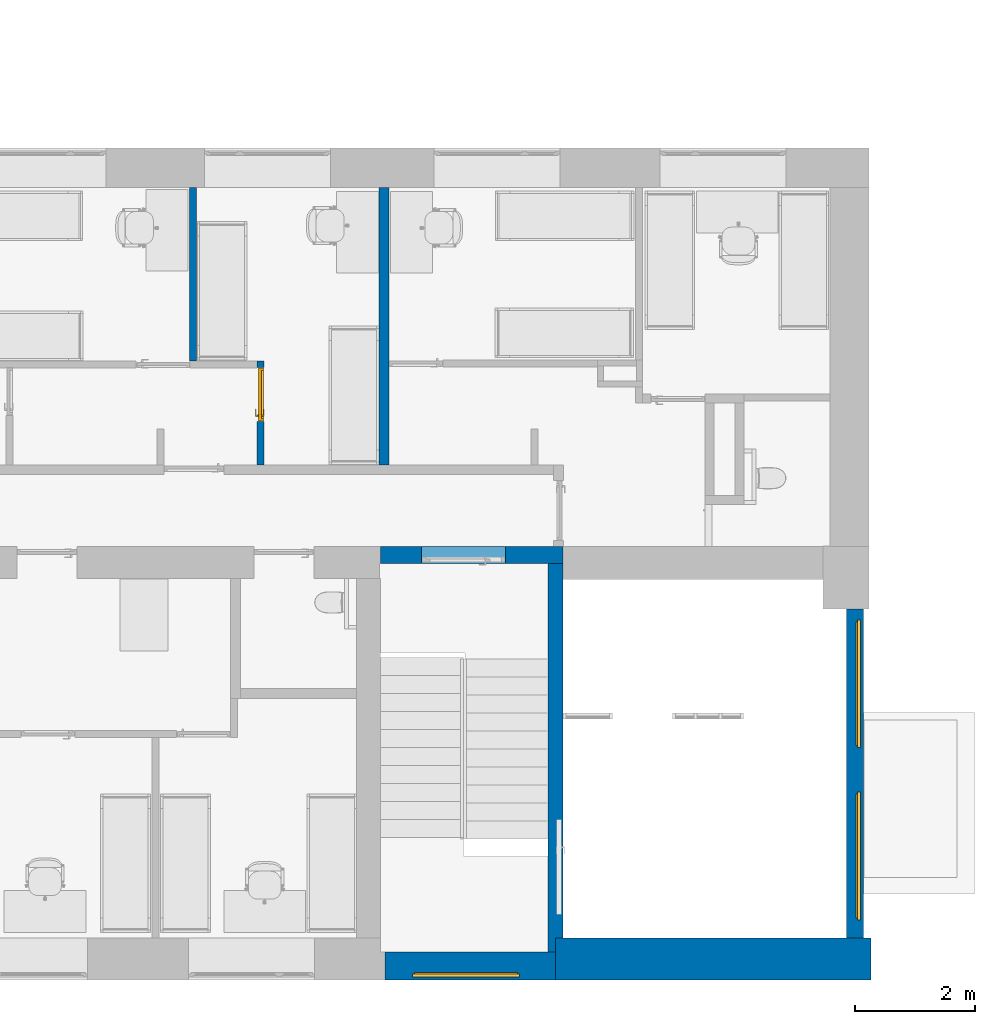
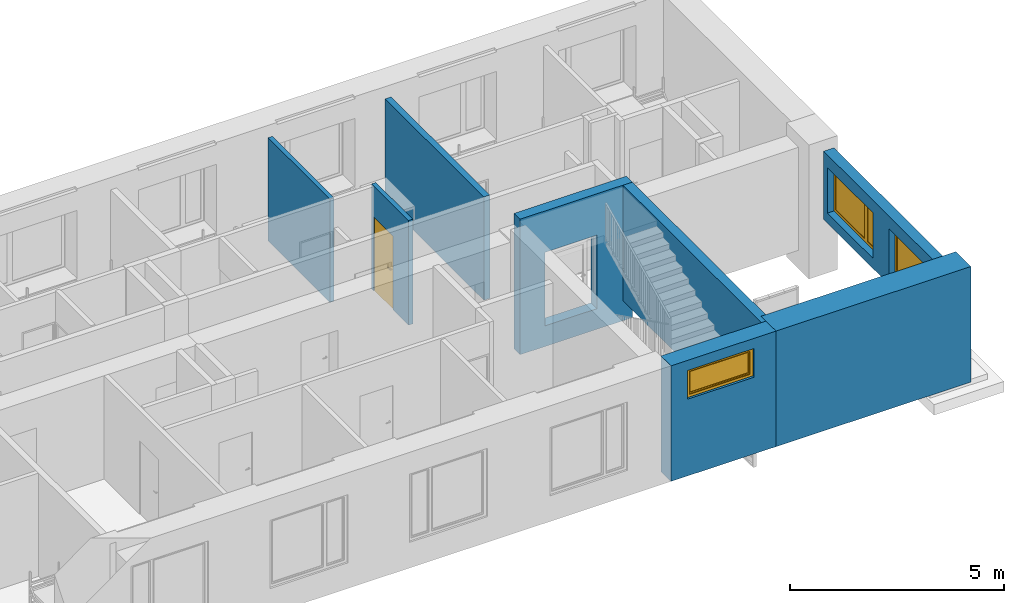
# One storey, part 13 of 46: 8 walls, 3 windows, 1 door, 10 openings.
"""IFC2X3 building model written with IfcOpenShell, lengths in millimetres."""

from ifc_helpers import new_model, entity, si_unit, converted_unit, derived_unit, direction, frame, frame_2d, origin, origin_2d_with_axis, place, context, subcontext, project, spatial, polyline, rectangle, outline, extrude, faceted_brep, source, transform, mapped, material, material_list, layer, layer_set, layer_usage, type_object, type_shapes, element, fill, save


model = new_model("IFC2X3")

# Units and contexts
model_context = context("Model", 3, precision=0.01, world=origin(), true_north=direction((6.12303176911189e-17, 1.0)))
body_context = subcontext(model_context, "Body", "Model", "MODEL_VIEW")
ifc_project = project(units=[si_unit("LENGTHUNIT", "METRE", prefix="MILLI"), si_unit("AREAUNIT", "SQUARE_METRE"), si_unit("VOLUMEUNIT", "CUBIC_METRE"), converted_unit("PLANEANGLEUNIT", "DEGREE", entity("IfcRatioMeasure", 0.0174532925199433), si_unit("PLANEANGLEUNIT", "RADIAN"), dimensions=[0, 0, 0, 0, 0, 0, 0]), si_unit("MASSUNIT", "GRAM", prefix="KILO"), derived_unit("MASSDENSITYUNIT", [(si_unit("MASSUNIT", "GRAM", prefix="KILO"), 1), (si_unit("LENGTHUNIT", "METRE"), -3)]), si_unit("TIMEUNIT", "SECOND"), si_unit("FREQUENCYUNIT", "HERTZ"), si_unit("THERMODYNAMICTEMPERATUREUNIT", "DEGREE_CELSIUS"), derived_unit("THERMALTRANSMITTANCEUNIT", [(si_unit("MASSUNIT", "GRAM", prefix="KILO"), 1), (si_unit("THERMODYNAMICTEMPERATUREUNIT", "KELVIN"), -1), (si_unit("TIMEUNIT", "SECOND"), -3)]), derived_unit("VOLUMETRICFLOWRATEUNIT", [(si_unit("LENGTHUNIT", "METRE"), 3), (si_unit("TIMEUNIT", "SECOND"), -1)]), si_unit("ELECTRICCURRENTUNIT", "AMPERE"), si_unit("ELECTRICVOLTAGEUNIT", "VOLT"), si_unit("POWERUNIT", "WATT"), si_unit("FORCEUNIT", "NEWTON", prefix="KILO"), si_unit("ILLUMINANCEUNIT", "LUX"), si_unit("LUMINOUSFLUXUNIT", "LUMEN"), si_unit("LUMINOUSINTENSITYUNIT", "CANDELA"), derived_unit("USERDEFINED", [(si_unit("MASSUNIT", "GRAM", prefix="KILO"), -1), (si_unit("LENGTHUNIT", "METRE"), -2), (si_unit("TIMEUNIT", "SECOND"), 3), (si_unit("LUMINOUSFLUXUNIT", "LUMEN"), 1)]), derived_unit("LINEARVELOCITYUNIT", [(si_unit("LENGTHUNIT", "METRE"), 1), (si_unit("TIMEUNIT", "SECOND"), -1)]), si_unit("PRESSUREUNIT", "PASCAL"), derived_unit("USERDEFINED", [(si_unit("LENGTHUNIT", "METRE"), -2), (si_unit("MASSUNIT", "GRAM", prefix="KILO"), 1), (si_unit("TIMEUNIT", "SECOND"), -2)]), derived_unit("LINEARFORCEUNIT", [(si_unit("MASSUNIT", "GRAM", prefix="KILO"), 1), (si_unit("LENGTHUNIT", "METRE"), 1), (si_unit("TIMEUNIT", "SECOND"), -2), (si_unit("LENGTHUNIT", "METRE"), -1)]), derived_unit("PLANARFORCEUNIT", [(si_unit("MASSUNIT", "GRAM", prefix="KILO"), 1), (si_unit("LENGTHUNIT", "METRE"), 1), (si_unit("TIMEUNIT", "SECOND"), -2), (si_unit("LENGTHUNIT", "METRE"), -2)])], contexts=[model_context])

# Site, building, storey
site_placement = place(None, origin())
site = spatial("IfcSite", under=ifc_project, at=site_placement, Name="Default", CompositionType="ELEMENT")
building_placement = place(site_placement, origin())
building = spatial("IfcBuilding", under=site, at=building_placement, Name="SMA ARH", CompositionType="ELEMENT")
storey_placement = place(building_placement, origin())
storey = spatial("IfcBuildingStorey", under=building, at=storey_placement, Name="1 Korrus", CompositionType="ELEMENT", Elevation=0.0)

# Wall, opening
ifc_material_1 = material(Name="_ol.olev sein")
ifc_layer_1 = layer(ifc_material_1, 700.0)
ifc_layer_set_1 = layer_set([ifc_layer_1], Name="Basic Wall:Generic - 700mm")
ifc_layer_usage_1 = layer_usage(ifc_layer_set_1, "AXIS2", "POSITIVE", -350.0)
wall_type_1 = type_object("IfcWallType", Name="Basic Wall:Generic - 700mm", PredefinedType="STANDARD", material=ifc_layer_set_1)
wall_1_placement = place(storey_placement, frame((33740.0, -350.0, 0.0)))
wall_1 = element("IfcWallStandardCase", 1, at=wall_1_placement, inside=storey, type_object=wall_type_1, material=ifc_layer_usage_1, Name="Basic Wall:Generic - 700mm", ObjectType="Basic Wall:Generic - 700mm", context=body_context, shape_type="SweptSolid", body=[
    extrude(rectangle(XDim=5260.69800172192, YDim=700.0, at=frame_2d((2630.34900086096, 2.8421709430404e-14), x_axis=(-1.0, 0.0))), origin(), (0.0, 0.0, 1.0), 3299.99999999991),
])
opening_1_placement = place(wall_1_placement, origin())
element("IfcOpeningElement", 2, at=opening_1_placement, cuts=wall_1, Name="Basic Wall:Generic - 700mm", ObjectType="Opening", context=body_context, shape_type="SweptSolid", body=[
    extrude(rectangle(XDim=820.0, YDim=1800.0, at=frame_2d((0.0, 1.4210854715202e-13), x_axis=(0.0, 1.0))), frame((-1490.0, -1404.0, 2600.0), z_axis=(0.0, 1.0, 0.0), x_axis=(-1.0, 0.0, 0.0)), (0.0, 0.0, 1.0), 3048.0),
])

# Wall, openings
ifc_layer_2 = layer(ifc_material_1, 280.0)
ifc_layer_set_2 = layer_set([ifc_layer_2], Name="Basic Wall:Generic - 280mm")
ifc_layer_usage_2 = layer_usage(ifc_layer_set_2, "AXIS2", "POSITIVE", -140.0)
wall_type_2 = type_object("IfcWallType", Name="Basic Wall:Generic - 280mm", PredefinedType="STANDARD", material=ifc_layer_set_2)
wall_2_placement = place(storey_placement, frame((30830.0, 6380.0, -568.557748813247)))
wall_2 = element("IfcWallStandardCase", 3, at=wall_2_placement, inside=storey, type_object=wall_type_2, material=ifc_layer_usage_2, Name="Basic Wall:Generic - 280mm", ObjectType="Basic Wall:Generic - 280mm", context=body_context, shape_type="SweptSolid", body=[
    extrude(rectangle(XDim=3035.00000000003, YDim=279.999999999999, at=frame_2d((1517.50000000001, 3.69482222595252e-13), x_axis=(-1.0, 0.0))), origin(), (0.0, 0.0, 1.0), 3868.55774881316),
])
opening_2_placement = place(wall_2_placement, origin())
element("IfcOpeningElement", 4, at=opening_2_placement, cuts=wall_2, Name="Basic Wall:Generic - 280mm", ObjectType="Opening", context=body_context, shape_type="SweptSolid", body=[
    extrude(rectangle(XDim=2059.99999999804, YDim=999.999999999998, at=origin_2d_with_axis()), frame((-1615.0, -1384.0, 1598.55774881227), z_axis=(0.0, 1.0, 0.0), x_axis=(0.0, 0.0, 1.0)), (0.0, 0.0, 1.0), 3048.0),
])
opening_3_placement = place(wall_2_placement, origin())
element("IfcOpeningElement", 5, at=opening_3_placement, cuts=wall_2, Name="Basic Wall:Generic - 280mm", ObjectType="Opening", context=body_context, shape_type="SweptSolid", body=[
    extrude(rectangle(XDim=2099.99999999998, YDim=1350.0, at=frame_2d((0.0, -2.1600499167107e-12), x_axis=(1.0, 0.0))), frame((1345.0, -1384.0, 4918.55774881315), z_axis=(0.0, 1.0, 0.0), x_axis=(0.0, 0.0, 1.0)), (0.0, 0.0, 1.0), 3048.0),
])
opening_4_placement = place(wall_2_placement, frame((2080.0, 140.0, 588.557748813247)))
element("IfcOpeningElement", 6, at=opening_4_placement, cuts=wall_2, Name="SMA_D02, 2-poolne:SU-AL-02 - 1400x2100 EI-30:1", ObjectType="Opening", context=body_context, shape_type="SweptSolid", body=[
    extrude(rectangle(XDim=2099.99999999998, YDim=1400.0, at=frame_2d((1049.99999999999, 700.0), x_axis=(1.0, 0.0))), frame((0.0, 0.0, 0.0), z_axis=(0.0, -1.0, 0.0), x_axis=(0.0, 0.0, 1.0)), (0.0, 0.0, 1.0), 280.0),
])

# Wall, openings, windows
ifc_layer_usage_3 = layer_usage(ifc_layer_set_2, "AXIS2", "NEGATIVE", 140.0)
wall_3_placement = place(storey_placement, frame((38729.9009991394, 5480.0, 1042.37172766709), z_axis=(0.0, 0.0, 1.0), x_axis=(0.0, -1.0, 0.0)))
wall_3 = element("IfcWallStandardCase", 7, at=wall_3_placement, inside=storey, type_object=wall_type_2, material=ifc_layer_usage_3, Name="Basic Wall:Generic - 280mm", ObjectType="Basic Wall:Generic - 280mm", context=body_context, shape_type="SweptSolid", body=[
    extrude(rectangle(XDim=5480.00000000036, YDim=279.999999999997, at=frame_2d((2740.00000000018, 0.0), x_axis=(-1.0, 0.0))), origin(), (0.0, 0.0, 1.0), 1947.62827233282),
])
opening_5_placement = place(wall_3_placement, frame((180.0, -140.0, 287.628272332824)))
opening_5 = element("IfcOpeningElement", 8, at=opening_5_placement, cuts=wall_3, Name="SMA_W2, 2-jaotus:A-00 - 19800x1900:1", ObjectType="Opening", context=body_context, shape_type="SweptSolid", body=[
    extrude(rectangle(XDim=1300.0, YDim=2130.0, at=frame_2d((650.0, 1065.0), x_axis=(1.0, 0.0))), frame((0.0, 0.0, 0.0), z_axis=(0.0, 1.0, 0.0), x_axis=(0.0, 0.0, 1.0)), (0.0, 0.0, 1.0), 280.0),
])
opening_6_placement = place(wall_3_placement, frame((3050.0, -140.0, 287.628272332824)))
opening_6 = element("IfcOpeningElement", 9, at=opening_6_placement, cuts=wall_3, Name="SMA_W2, 2-jaotus:A-00 - 19800x1900:1", ObjectType="Opening", context=body_context, shape_type="SweptSolid", body=[
    extrude(rectangle(XDim=1300.0, YDim=2130.0, at=frame_2d((650.0, 1065.0), x_axis=(1.0, 0.0))), frame((0.0, 0.0, 0.0), z_axis=(0.0, 1.0, 0.0), x_axis=(0.0, 0.0, 1.0)), (0.0, 0.0, 1.0), 280.0),
])
ifc_material_2 = material(Name="Glass")
ifc_material_3 = material(Name="Hall")
ifc_material_list_1 = material_list([ifc_material_2, ifc_material_3])
ifc_material_4 = material(Name="<Unnamed>")
ifc_material_list_2 = material_list([ifc_material_2, ifc_material_3, ifc_material_4, ifc_material_3, ifc_material_4])
window_style_1 = type_object("IfcWindowStyle", Name="SMA_W2, 2-jaotus:A-00 - 19800x1900", ConstructionType="NOTDEFINED", OperationType="NOTDEFINED", ParameterTakesPrecedence=False, Sizeable=False, material=ifc_material_list_2)
shared_shape_1 = source(origin(), body_context, "Body", "Brep", [
    faceted_brep([(105.0, 170.0, 1195.0), (105.0, 170.0, 105.0), (1470.0, 170.0, 105.0), (1470.0, 170.0, 1195.0), (105.0, 190.0, 1195.0), (105.0, 190.0, 105.0), (1470.0, 190.0, 105.0), (1470.0, 190.0, 1195.0)], [[[0, 1, 2, 3]], [[1, 0, 4, 5]], [[2, 1, 5, 6]], [[3, 2, 6, 7]], [[4, 7, 6, 5]], [[0, 3, 7, 4]]]),
    faceted_brep([(1610.0, 170.0, 105.0), (2025.0, 170.0, 105.0), (2025.0, 170.0, 1195.0), (1610.0, 170.0, 1195.0), (1610.0, 190.0, 105.0), (2025.0, 190.0, 105.0), (2025.0, 190.0, 1195.0), (1610.0, 190.0, 1195.0)], [[[0, 1, 2, 3]], [[1, 0, 4, 5]], [[2, 1, 5, 6]], [[0, 3, 7, 4]], [[4, 7, 6, 5]], [[3, 2, 6, 7]]]),
    faceted_brep([(35.0, 155.0, 35.0), (1540.0, 155.0, 35.0), (1540.0, 155.0, 1265.0), (35.0, 155.0, 1265.0), (1470.0, 155.0, 1195.0), (1470.0, 155.0, 105.0), (105.0, 155.0, 105.0), (105.0, 155.0, 1195.0), (35.0, 205.0, 35.0), (1540.0, 205.0, 35.0), (1540.0, 205.0, 1265.0), (35.0, 205.0, 1265.0), (1470.0, 205.0, 1195.0), (1470.0, 205.0, 105.0), (105.0, 205.0, 105.0), (105.0, 205.0, 1195.0)], [[[0, 1, 2, 3], [4, 5, 6, 7]], [[1, 0, 8, 9]], [[2, 1, 9, 10]], [[0, 3, 11, 8]], [[5, 4, 12, 13]], [[6, 5, 13, 14]], [[7, 6, 14, 15]], [[8, 11, 10, 9], [12, 15, 14, 13]], [[3, 2, 10, 11]], [[4, 7, 15, 12]]]),
    faceted_brep([(1540.0, 155.0, 35.0), (2095.0, 155.0, 35.0), (2095.0, 155.0, 1265.0), (1540.0, 155.0, 1265.0), (2025.0, 155.0, 1195.0), (2025.0, 155.0, 105.0), (1610.0, 155.0, 105.0), (1610.0, 155.0, 1195.0), (1540.0, 205.0, 35.0), (2095.0, 205.0, 35.0), (2095.0, 205.0, 1265.0), (1540.0, 205.0, 1265.0), (2025.0, 205.0, 1195.0), (2025.0, 205.0, 105.0), (1610.0, 205.0, 105.0), (1610.0, 205.0, 1195.0)], [[[0, 1, 2, 3], [4, 5, 6, 7]], [[1, 0, 8, 9]], [[2, 1, 9, 10]], [[0, 3, 11, 8]], [[5, 4, 12, 13]], [[6, 5, 13, 14]], [[7, 6, 14, 15]], [[8, 11, 10, 9], [12, 15, 14, 13]], [[3, 2, 10, 11]], [[4, 7, 15, 12]]]),
    faceted_brep([(0.0, 180.0, 0.0), (2130.0, 180.0, 0.0), (2130.0, 180.0, 1300.0), (0.0, 180.0, 1300.0), (2095.0, 180.0, 35.0), (1540.0, 180.0, 35.0), (1540.0, 180.0, 1265.0), (2095.0, 180.0, 1265.0), (70.0, 180.0, 1230.0), (1505.0, 180.0, 1230.0), (1505.0, 180.0, 70.0), (70.0, 180.0, 70.0), (0.0, 230.0, 0.0), (2130.0, 230.0, 0.0), (2130.0, 230.0, 1300.0), (0.0, 230.0, 1300.0), (1505.0, 230.0, 1230.0), (1505.0, 230.0, 70.0), (70.0, 230.0, 70.0), (70.0, 230.0, 1230.0), (2095.0, 205.0, 35.0), (1540.0, 205.0, 35.0), (1540.0, 205.0, 1265.0), (2095.0, 205.0, 1265.0), (1575.0, 230.0, 1230.0), (1575.0, 230.0, 70.0), (2060.0, 230.0, 70.0), (2060.0, 230.0, 1230.0), (1575.0, 205.0, 1230.0), (1575.0, 205.0, 70.0), (2060.0, 205.0, 70.0), (2060.0, 205.0, 1230.0)], [[[0, 1, 2, 3], [4, 5, 6, 7], [8, 9, 10, 11]], [[1, 0, 12, 13]], [[2, 1, 13, 14]], [[0, 3, 15, 12]], [[10, 9, 16, 17]], [[11, 10, 17, 18]], [[8, 11, 18, 19]], [[20, 21, 5, 4]], [[21, 22, 6, 5]], [[23, 20, 4, 7]], [[12, 15, 14, 13], [19, 18, 17, 16], [24, 25, 26, 27]], [[25, 24, 28, 29]], [[26, 25, 29, 30]], [[27, 26, 30, 31]], [[21, 20, 23, 22], [28, 31, 30, 29]], [[3, 2, 14, 15]], [[24, 27, 31, 28]], [[9, 8, 19, 16]], [[22, 23, 7, 6]]]),
])
type_shapes(window_style_1, [shared_shape_1])
window_1_placement = place(opening_6_placement, origin())
window_1 = element("IfcWindow", 10, at=window_1_placement, inside=storey, type_object=window_style_1, material=ifc_material_list_1, Name="SMA_W2, 2-jaotus:A-00 - 19800x1900", ObjectType="SMA_W2, 2-jaotus:A-00 - 19800x1900", OverallHeight=1300.0, OverallWidth=2130.0, context=body_context, shape_type="MappedRepresentation", body=[
    mapped(shared_shape_1, transform((0.0, 0.0, 0.0), scale=1.0)),
])
fill(opening_6, window_1)
ifc_material_list_3 = material_list([ifc_material_2, ifc_material_3])
window_2_placement = place(opening_5_placement, origin())
window_2 = element("IfcWindow", 11, at=window_2_placement, inside=storey, type_object=window_style_1, material=ifc_material_list_3, Name="SMA_W2, 2-jaotus:A-00 - 19800x1900", ObjectType="SMA_W2, 2-jaotus:A-00 - 19800x1900", OverallHeight=1300.0, OverallWidth=2130.0, context=body_context, shape_type="MappedRepresentation", body=[
    mapped(shared_shape_1, transform((0.0, 0.0, 0.0), scale=1.0)),
])
fill(opening_5, window_2)

# Wall, opening
ifc_layer_3 = layer(ifc_material_1, 250.0)
ifc_layer_set_3 = layer_set([ifc_layer_3], Name="Basic Wall:Generic - 250mm")
ifc_layer_usage_4 = layer_usage(ifc_layer_set_3, "AXIS2", "NEGATIVE", 125.0)
wall_type_3 = type_object("IfcWallType", Name="Basic Wall:Generic - 250mm", PredefinedType="STANDARD", material=ifc_layer_set_3)
wall_4_placement = place(storey_placement, frame((33740.0, 6240.0, 0.0), z_axis=(0.0, 0.0, 1.0), x_axis=(0.0, -1.0, 0.0)))
wall_4 = element("IfcWallStandardCase", 12, at=wall_4_placement, inside=storey, type_object=wall_type_3, material=ifc_layer_usage_4, Name="Basic Wall:Generic - 250mm", ObjectType="Basic Wall:Generic - 250mm", context=body_context, shape_type="SweptSolid", body=[
    extrude(outline(polyline([(0.0, -125.0), (270.0, -125.0), (1230.0, -125.0), (6240.0, -125.0), (6470.0, -125.0), (6470.0, 0.0), (6240.0, 0.0), (6240.0, 125.0), (1230.0, 125.0), (270.0, 125.0), (0.0, 125.0), (0.0, -125.0)])), origin(), (0.0, 0.0, 1.0), 3299.99999999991),
])
opening_7_placement = place(wall_4_placement, frame((4255.0, -125.0, -1270.0)))
element("IfcOpeningElement", 13, at=opening_7_placement, cuts=wall_4, Name="SMA_D02, 2-poolne:SU-AL-04 - 1600x2100:1", ObjectType="Opening", context=body_context, shape_type="SweptSolid", body=[
    extrude(rectangle(XDim=2189.99999999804, YDim=1600.0, at=frame_2d((1094.99999999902, 800.0), x_axis=(1.0, 0.0))), frame((0.0, 0.0, 0.0), z_axis=(0.0, 1.0, 0.0), x_axis=(0.0, 0.0, 1.0)), (0.0, 0.0, 1.0), 250.0),
])

# Wall, opening, window
ifc_layer_4 = layer(ifc_material_1, 470.0)
ifc_layer_set_4 = layer_set([ifc_layer_4], Name="Basic Wall:Generic - 470mm")
ifc_layer_usage_5 = layer_usage(ifc_layer_set_4, "AXIS2", "POSITIVE", -235.0)
wall_type_4 = type_object("IfcWallType", Name="Basic Wall:Generic - 470mm", PredefinedType="STANDARD", material=ifc_layer_set_4)
wall_5_placement = place(storey_placement, frame((30900.6980017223, -465.0, 0.0)))
wall_5 = element("IfcWallStandardCase", 14, at=wall_5_placement, inside=storey, type_object=wall_type_4, material=ifc_layer_usage_5, Name="Basic Wall:Generic - 470mm", ObjectType="Basic Wall:Generic - 470mm", context=body_context, shape_type="SweptSolid", body=[
    extrude(rectangle(XDim=2839.30199827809, YDim=470.0, at=frame_2d((1419.65099913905, -8.5265128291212e-14), x_axis=(-1.0, 0.0))), origin(), (0.0, 0.0, 1.0), 3299.99999999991),
])
opening_8_placement = place(wall_5_placement, frame((2249.30199827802, 235.0, 2190.0)))
opening_8 = element("IfcOpeningElement", 15, at=opening_8_placement, cuts=wall_5, Name="SMA_W1, 1-jaotus1:A-00_18000x600 mm:1", ObjectType="Opening", context=body_context, shape_type="SweptSolid", body=[
    extrude(rectangle(XDim=820.0, YDim=1800.0, at=frame_2d((410.0, 900.0), x_axis=(1.0, 0.0))), frame((0.0, 0.0, 0.0), z_axis=(0.0, -1.0, 0.0), x_axis=(0.0, 0.0, 1.0)), (0.0, 0.0, 1.0), 470.0),
])
ifc_material_5 = material(Name="EST. Klaas. 3x. Default")
ifc_material_6 = material(Name="Default")
ifc_material_list_4 = material_list([ifc_material_5, ifc_material_6])
ifc_material_list_5 = material_list([ifc_material_4, ifc_material_4, ifc_material_6, ifc_material_6, ifc_material_5])
window_style_2 = type_object("IfcWindowStyle", Name="SMA_W1, 1-jaotus1:A-00_18000x600 mm", ConstructionType="NOTDEFINED", OperationType="NOTDEFINED", ParameterTakesPrecedence=False, Sizeable=False, material=ifc_material_list_5)
shared_shape_2 = source(origin(), body_context, "Body", "SweptSolid", [
    extrude(rectangle(XDim=20.0, YDim=1570.0, at=frame_2d((-7.99360577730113e-15, -5.6843418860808e-14), x_axis=(1.0, 0.0))), frame((900.0, 370.0, 115.0), z_axis=(0.0, 0.0, 1.0), x_axis=(0.0, 1.0, 0.0)), (0.0, 0.0, 1.0), 590.0),
    extrude(outline(polyline([(-365.0, -855.0), (365.0, -855.0), (365.0, 855.0), (-365.0, 855.0), (-365.0, -855.0)]), holes=[polyline([(295.0, 785.0), (295.0, -785.0), (-295.0, -785.0), (-295.0, 785.0), (295.0, 785.0)])]), frame((900.0, 345.0, 410.0), z_axis=(0.0, 1.0, 0.0), x_axis=(0.0, 0.0, 1.0)), (0.0, 0.0, 1.0), 50.0),
    extrude(outline(polyline([(-400.0, -890.0), (400.0, -890.0), (400.0, 890.0), (-400.0, 890.0), (-400.0, -890.0)]), holes=[polyline([(-330.0, -820.0), (-330.0, 820.0), (330.0, 820.0), (330.0, -820.0), (-330.0, -820.0)])]), frame((900.0, 370.0, 410.0), z_axis=(0.0, 1.0, 0.0), x_axis=(0.0, 0.0, 1.0)), (0.0, 0.0, 1.0), 50.0),
])
type_shapes(window_style_2, [shared_shape_2])
window_3_placement = place(opening_8_placement, frame((0.0, 0.0, 0.0), z_axis=(0.0, 0.0, 1.0), x_axis=(-1.0, 0.0, 0.0)))
window_3 = element("IfcWindow", 16, at=window_3_placement, inside=storey, type_object=window_style_2, material=ifc_material_list_4, Name="SMA_W1, 1-jaotus1:A-00_18000x600 mm", ObjectType="SMA_W1, 1-jaotus1:A-00_18000x600 mm", OverallHeight=820.0, OverallWidth=1800.0, context=body_context, shape_type="MappedRepresentation", body=[
    mapped(shared_shape_2, transform((0.0, 0.0, 0.0), scale=1.0)),
])
fill(opening_8, window_3)

# Wall, opening
ifc_material_7 = material(Name="EST. Ehitusplaat. Kipsplaat")
ifc_layer_5 = layer(ifc_material_7, 12.5)
ifc_layer_6 = layer(ifc_material_7, 12.5)
ifc_material_8 = material(Name="EST. Soojustus. Mineraalvill. Default")
ifc_layer_7 = layer(ifc_material_8, 50.0)
ifc_layer_8 = layer(ifc_material_7, 12.5)
ifc_layer_9 = layer(ifc_material_8, 50.0)
ifc_layer_10 = layer(ifc_material_7, 12.5)
ifc_layer_11 = layer(ifc_material_7, 12.5)
ifc_layer_set_5 = layer_set([ifc_layer_5, ifc_layer_6, ifc_layer_7, ifc_layer_8, ifc_layer_9, ifc_layer_10, ifc_layer_11], Name="Basic Wall:SS-04_Kips, 50+50 mm metallkarkass 2")
ifc_layer_usage_6 = layer_usage(ifc_layer_set_5, "AXIS2", "NEGATIVE", 81.25)
wall_type_5 = type_object("IfcWallType", Name="Basic Wall:SS-04_Kips, 50+50 mm metallkarkass 2", PredefinedType="STANDARD", material=ifc_layer_set_5)
wall_6_placement = place(storey_placement, frame((30886.5000000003, 12500.0, 0.0), z_axis=(0.0, 0.0, 1.0), x_axis=(0.0, -1.0, 0.0)))
wall_6 = element("IfcWallStandardCase", 17, at=wall_6_placement, inside=storey, type_object=wall_type_5, material=ifc_layer_usage_6, Name="Basic Wall:SS-04_Kips, 50+50 mm metallkarkass 2", ObjectType="Basic Wall:SS-04_Kips, 50+50 mm metallkarkass 2", context=body_context, shape_type="SweptSolid", body=[
    extrude(rectangle(XDim=4617.49999999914, YDim=162.499999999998, at=frame_2d((2308.74999999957, 9.66338120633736e-13), x_axis=(-1.0, 0.0))), origin(), (0.0, 0.0, 1.0), 2949.99999999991),
])
opening_9_placement = place(wall_6_placement, origin())
element("IfcOpeningElement", 18, at=opening_9_placement, cuts=wall_6, Name="Basic Wall:SS-04_Kips, 50+50 mm metallkarkass 2", ObjectType="Opening", context=body_context, shape_type="SweptSolid", body=[
    extrude(rectangle(XDim=2099.99999999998, YDim=116.0, at=frame_2d((0.0, 0.0), x_axis=(0.0, 1.0))), frame((2926.4999999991, 81.2500000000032, 1050.0), z_axis=(0.0, 1.0, 0.0), x_axis=(1.0, 0.0, 0.0)), (0.0, 0.0, 1.0), 899.999999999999),
])

# Wall
ifc_layer_12 = layer(ifc_material_7, 12.5)
ifc_layer_13 = layer(ifc_material_7, 12.5)
ifc_layer_14 = layer(ifc_material_8, 66.0)
ifc_layer_15 = layer(ifc_material_7, 12.5)
ifc_layer_16 = layer(ifc_material_7, 12.5)
ifc_layer_set_6 = layer_set([ifc_layer_12, ifc_layer_13, ifc_layer_14, ifc_layer_15, ifc_layer_16], Name="Basic Wall:SS-05_Kips, 66mm metallkarkass")
ifc_layer_usage_7 = layer_usage(ifc_layer_set_6, "AXIS2", "NEGATIVE", 58.0)
wall_type_6 = type_object("IfcWallType", Name="Basic Wall:SS-05_Kips, 66mm metallkarkass", PredefinedType="STANDARD", material=ifc_layer_set_6)
wall_7_placement = place(storey_placement, frame((27701.5000000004, 12500.0, 0.0), z_axis=(0.0, 0.0, 1.0), x_axis=(0.0, -1.0, 0.0)))
element("IfcWallStandardCase", 19, at=wall_7_placement, inside=storey, type_object=wall_type_6, material=ifc_layer_usage_7, Name="Basic Wall:SS-05_Kips, 66mm metallkarkass", ObjectType="Basic Wall:SS-05_Kips, 66mm metallkarkass", context=body_context, shape_type="SweptSolid", body=[
    extrude(rectangle(XDim=2889.49999999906, YDim=116.0, at=frame_2d((1444.74999999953, -2.06057393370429e-13), x_axis=(-1.0, 0.0))), origin(), (0.0, 0.0, 1.0), 2949.99999999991),
])

# Wall, opening, door
ifc_layer_usage_8 = layer_usage(ifc_layer_set_6, "AXIS2", "NEGATIVE", 58.0)
wall_8_placement = place(storey_placement, frame((28827.5000000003, 9610.5000000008, 0.0), z_axis=(0.0, 0.0, 1.0), x_axis=(0.0, -1.0, 0.0)))
wall_8 = element("IfcWallStandardCase", 20, at=wall_8_placement, inside=storey, type_object=wall_type_6, material=ifc_layer_usage_8, Name="Basic Wall:SS-05_Kips, 66mm metallkarkass", ObjectType="Basic Wall:SS-05_Kips, 66mm metallkarkass", context=body_context, shape_type="SweptSolid", body=[
    extrude(rectangle(XDim=1728.00000000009, YDim=116.0, at=frame_2d((864.000000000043, 5.6843418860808e-14), x_axis=(-1.0, 0.0))), origin(), (0.0, 0.0, 1.0), 2989.99999999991),
])
opening_10_placement = place(wall_8_placement, frame((1003.50000000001, 58.0, 0.0)))
opening_10 = element("IfcOpeningElement", 21, at=opening_10_placement, cuts=wall_8, Name="SMA_D01, 1-poolne:SU-P-05 - 900x2100 TUBA:1", ObjectType="Opening", context=body_context, shape_type="SweptSolid", body=[
    extrude(rectangle(XDim=2099.99999999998, YDim=900.0, at=frame_2d((1049.99999999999, 450.0), x_axis=(1.0, 0.0))), frame((0.0, 0.0, 0.0), z_axis=(0.0, -1.0, 0.0), x_axis=(0.0, 0.0, 1.0)), (0.0, 0.0, 1.0), 116.0),
])
ifc_material_9 = material(Name="EST. Metall. Alumiinium. Värvitud. RAL7023 (Concrete grey)")
ifc_material_list_6 = material_list([ifc_material_4, ifc_material_5, ifc_material_4, ifc_material_9, ifc_material_9, ifc_material_9, ifc_material_4])
door_style = type_object("IfcDoorStyle", Name="SMA_D01, 1-poolne:SU-P-05 - 900x2100 TUBA", ConstructionType="NOTDEFINED", OperationType="SINGLE_SWING_RIGHT", ParameterTakesPrecedence=False, Sizeable=False, material=ifc_material_list_6)
shared_shape_3 = source(origin(), body_context, "Body", "Brep", [
    faceted_brep([(110.0, 6.0, 1112.5), (110.0, 44.0, 1112.5), (85.0, 44.0, 1112.5), (85.0, 1.0, 1112.5), (205.0, 1.0, 1112.5), (205.0, 6.0, 1112.5), (110.0, 6.0, 1087.5), (205.0, 6.0, 1087.5), (205.0, 1.0, 1087.5), (85.0, 1.0, 1087.5), (85.0, 44.0, 1087.5), (110.0, 44.0, 1087.5)], [[[0, 1, 2, 3, 4, 5]], [[6, 7, 8, 9, 10, 11]], [[1, 0, 6, 11]], [[2, 1, 11, 10]], [[3, 2, 10, 9]], [[4, 3, 9, 8]], [[5, 4, 8, 7]], [[0, 5, 7, 6]]]),
    faceted_brep([(122.5, 44.0, 1137.5), (122.5, 46.0, 1137.5), (72.5000000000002, 46.0, 1137.5), (72.5000000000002, 44.0, 1137.5), (122.5, 44.0, 1017.5), (72.5000000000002, 44.0, 1017.5), (72.5000000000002, 46.0, 1017.5), (122.5, 46.0, 1017.5)], [[[0, 1, 2, 3]], [[4, 5, 6, 7]], [[1, 0, 4, 7]], [[2, 1, 7, 6]], [[3, 2, 6, 5]], [[0, 3, 5, 4]]]),
    faceted_brep([(110.0, 136.0, 1112.5), (205.0, 136.0, 1112.5), (205.0, 141.0, 1112.5), (85.0, 141.0, 1112.5), (85.0, 98.0, 1112.5), (110.0, 98.0, 1112.5), (110.0, 136.0, 1087.5), (110.0, 98.0, 1087.5), (85.0, 98.0, 1087.5), (85.0, 141.0, 1087.5), (205.0, 141.0, 1087.5), (205.0, 136.0, 1087.5)], [[[0, 1, 2, 3, 4, 5]], [[6, 7, 8, 9, 10, 11]], [[5, 7, 6, 0]], [[4, 8, 7, 5]], [[3, 9, 8, 4]], [[2, 10, 9, 3]], [[1, 11, 10, 2]], [[0, 6, 11, 1]]]),
    faceted_brep([(122.5, 98.0, 1137.5), (72.5000000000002, 98.0, 1137.5), (72.5000000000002, 96.0, 1137.5), (122.5, 96.0, 1137.5), (122.5, 98.0, 1017.5), (122.5, 96.0, 1017.5), (72.5000000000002, 96.0, 1017.5), (72.5000000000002, 98.0, 1017.5)], [[[0, 1, 2, 3]], [[4, 5, 6, 7]], [[3, 5, 4, 0]], [[2, 6, 5, 3]], [[1, 7, 6, 2]], [[0, 4, 7, 1]]]),
    faceted_brep([(850.0, 6.0, 30.0), (850.0, 6.0, 0.0), (850.0, 46.0, 0.0), (850.0, 46.0, 20.0), (850.0, 46.0, 30.0), (50.0, 6.0, 30.0), (50.0, 46.0, 30.0), (50.0, 46.0, 20.0), (50.0, 46.0, 0.0), (50.0, 6.0, 0.0), (35.0, 46.0, 0.0), (35.0, 96.0, 0.0), (865.0, 96.0, 0.0), (865.0, 46.0, 0.0), (865.0, 96.0, 20.0), (865.0, 46.0, 20.0), (35.0, 96.0, 20.0), (35.0, 46.0, 20.0)], [[[0, 1, 2, 3, 4]], [[5, 6, 7, 8, 9]], [[1, 0, 5, 9]], [[2, 1, 9, 8, 10, 11, 12, 13]], [[6, 4, 3, 7]], [[0, 4, 6, 5]], [[14, 15, 13, 12]], [[16, 11, 10, 17]], [[15, 14, 16, 17, 7, 3]], [[13, 15, 3, 2]], [[14, 12, 11, 16]], [[17, 10, 8, 7]]]),
    faceted_brep([(890.0, 6.0, 0.0), (850.0, 6.0, 0.0), (850.0, 46.0, 0.0), (865.0, 46.0, 0.0), (865.0, 96.0, 0.0), (890.0, 96.0, 0.0), (890.0, 6.0, 2090.0), (10.0, 6.0, 2090.0), (10.0, 6.0, 0.0), (50.0, 6.0, 0.0), (50.0, 6.0, 2050.0), (850.0, 6.0, 2050.0), (850.0, 46.0, 2050.0), (50.0, 46.0, 2050.0), (50.0, 46.0, 0.0), (35.0, 46.0, 0.0), (35.0, 46.0, 2065.0), (865.0, 46.0, 2065.0), (865.0, 96.0, 2065.0), (35.0, 96.0, 2065.0), (35.0, 96.0, 0.0), (10.0, 96.0, 0.0), (10.0, 96.0, 2090.0), (890.0, 96.0, 2090.0)], [[[0, 1, 2, 3, 4, 5]], [[1, 0, 6, 7, 8, 9, 10, 11]], [[2, 1, 11, 12]], [[3, 2, 12, 13, 14, 15, 16, 17]], [[4, 3, 17, 18]], [[5, 4, 18, 19, 20, 21, 22, 23]], [[0, 5, 23, 6]], [[8, 7, 22, 21]], [[9, 8, 21, 20, 15, 14]], [[10, 9, 14, 13]], [[16, 15, 20, 19]], [[11, 10, 13, 12]], [[17, 16, 19, 18]], [[7, 6, 23, 22]]]),
    faceted_brep([(35.0, 46.0, 2065.0), (35.0, 46.0, 20.0), (865.0, 46.0, 20.0), (865.0, 46.0, 2065.0), (35.0, 96.0, 2065.0), (865.0, 96.0, 2065.0), (865.0, 96.0, 20.0), (35.0, 96.0, 20.0)], [[[0, 1, 2, 3]], [[4, 5, 6, 7]], [[1, 0, 4, 7]], [[2, 1, 7, 6]], [[3, 2, 6, 5]], [[0, 3, 5, 4]]]),
])
type_shapes(door_style, [shared_shape_3])
door_placement = place(opening_10_placement, frame((0.0, 0.0, 0.0), z_axis=(0.0, 0.0, 1.0), x_axis=(-1.0, 0.0, 0.0)))
door = element("IfcDoor", 22, at=door_placement, inside=storey, type_object=door_style, material=ifc_material_9, Name="SMA_D01, 1-poolne:SU-P-05 - 900x2100 TUBA", ObjectType="SMA_D01, 1-poolne:SU-P-05 - 900x2100 TUBA", OverallHeight=2099.99999999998, OverallWidth=900.0, context=body_context, shape_type="MappedRepresentation", body=[
    mapped(shared_shape_3, transform((0.0, 0.0, 0.0), scale=1.0)),
])
fill(opening_10, door)

save(model, "model.ifc")
